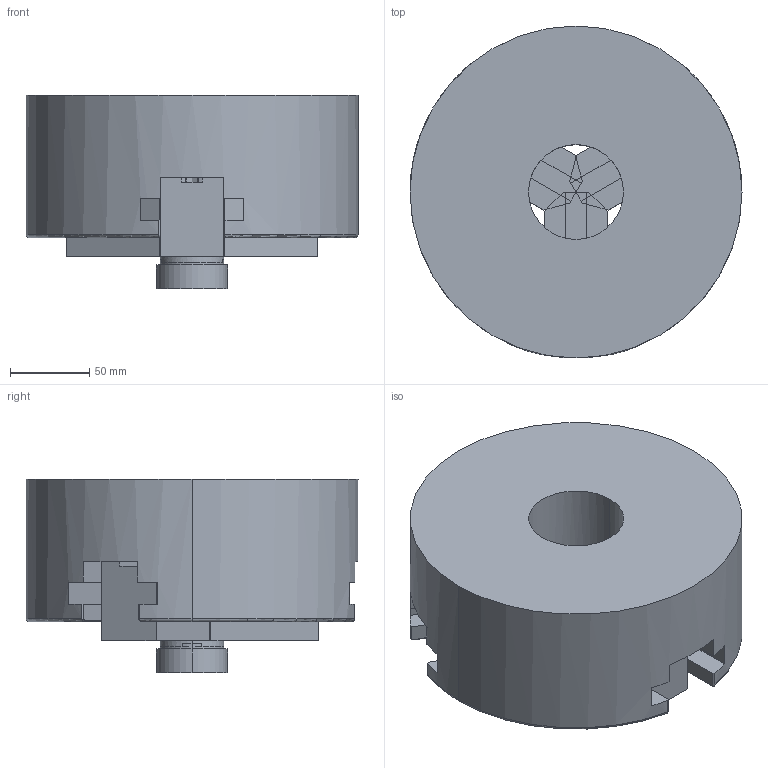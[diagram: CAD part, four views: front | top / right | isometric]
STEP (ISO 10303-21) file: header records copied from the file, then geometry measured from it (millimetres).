
FILE_DESCRIPTION(('CATIA V5 STEP Exchange'),'2;1');
FILE_NAME('C:\Users\Laurent\Desktop\Sujet National E33\CFAO Catia\Montage Ph30 Bague coulissante.stp','2017-01-26T14:01:56+00:00',('none'),('none'),'CATIA Version 5 Release 19 GA (IN-10)','CATIA V5 STEP AP203','none');
FILE_SCHEMA(('CONFIG_CONTROL_DESIGN'));
Length unit declared in the file: millimetre
Products named in the file (1): Produit1
Assembly tree (6 placements, depth 2):
  Produit1
    #56
    #2282  x3
    #3037
    #4281
Bounding box: 210 x 210 x 122.22 mm (x, y, z)
Volume: 2834984.2 mm3; surface area: 239297.8 mm2
Topology: 6 solids, 6 shells, 196 faces, 539 edges, 373 vertices
Faces by surface type: plane 104, cylinder 61, torus 21, bspline 6, cone 4
Entity records: 4926 total; most frequent: CARTESIAN_POINT 1268, ORIENTED_EDGE 738, DIRECTION 603, EDGE_CURVE 369, AXIS2_PLACEMENT_3D 281, VERTEX_POINT 240, VECTOR 211, LINE 211
